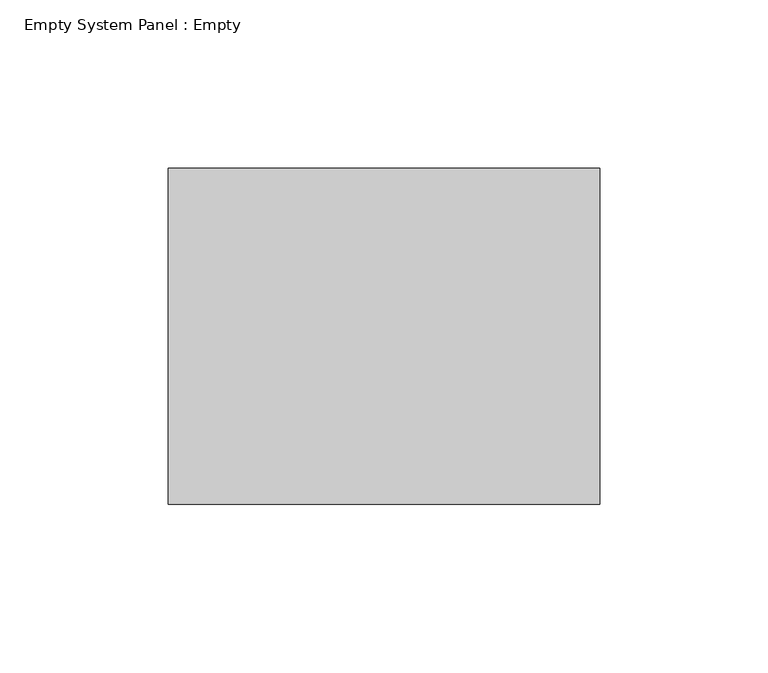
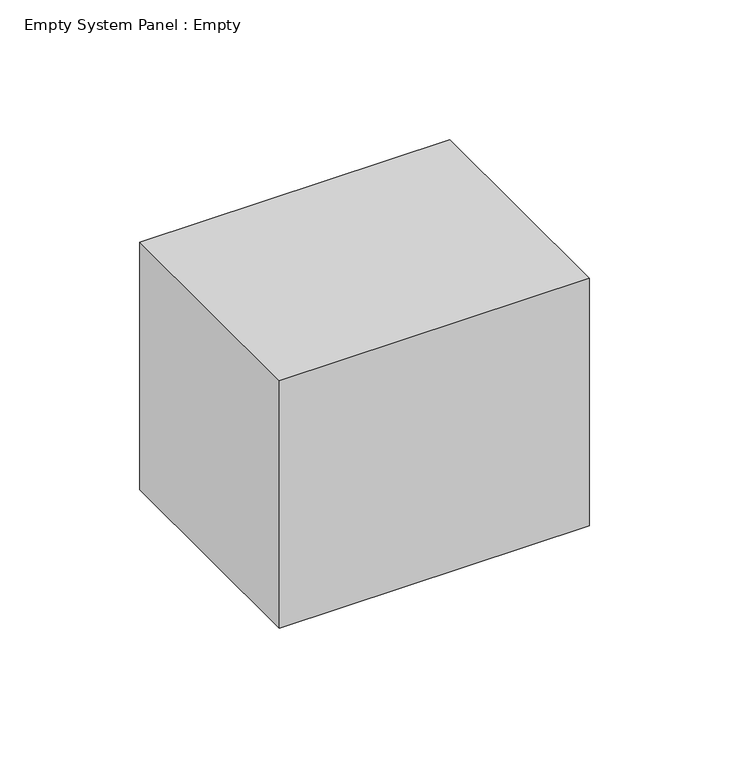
"""IFC4 building model written with IfcOpenShell, lengths in millimetres: plate geometry, Empty System Panel : Empty."""

from ifc_helpers import new_model, si_unit, origin, origin_with_axes, place, context, project, spatial, polyline, outline, extrude, source, transform, mapped, element, save


def empty_system_panel_empty_5e80e148(model_context):
    return source(origin(), model_context, "Body", "SweptSolid", [
        extrude(outline(polyline([(64.187805, 50.0), (-64.187805, 50.0), (-64.187805, 150.0), (64.187805, 150.0), (64.187805, 50.0)])), origin_with_axes(), (0.0, 0.0, 1.0), 108.37561),
    ])


if __name__ == "__main__":
    model = new_model("IFC4")
    model_context = context("Model", 3, world=origin())
    ifc_project = project(units=[si_unit("LENGTHUNIT", "METRE", prefix="MILLI")], contexts=[model_context])
    site = spatial("IfcSite", under=ifc_project)
    building = spatial("IfcBuilding", under=site)
    placement = place(None, origin())
    empty_system_panel_empty_shape = empty_system_panel_empty_5e80e148(model_context)
    element("IfcPlate", 1, ObjectType="Empty System Panel : Empty", at=placement, inside=building, context=model_context, shape_type="MappedRepresentation", body=[
        mapped(empty_system_panel_empty_shape, transform((0.0, 0.0, 0.0), x_axis=(1.0, 0.0, 0.0), y_axis=(0.0, 1.0, 0.0), z_axis=(0.0, 0.0, 1.0))),
    ])
    save(model, "model.ifc")
